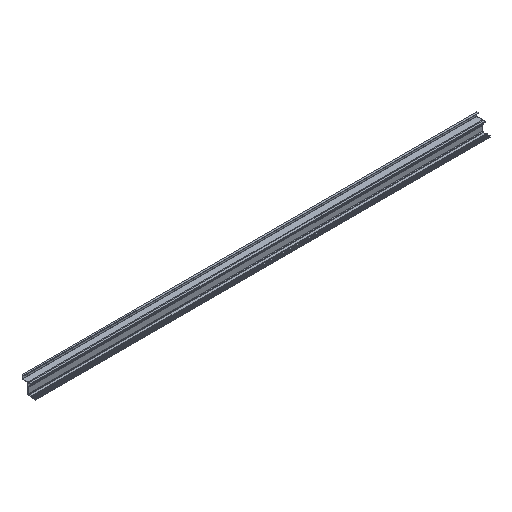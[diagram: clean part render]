
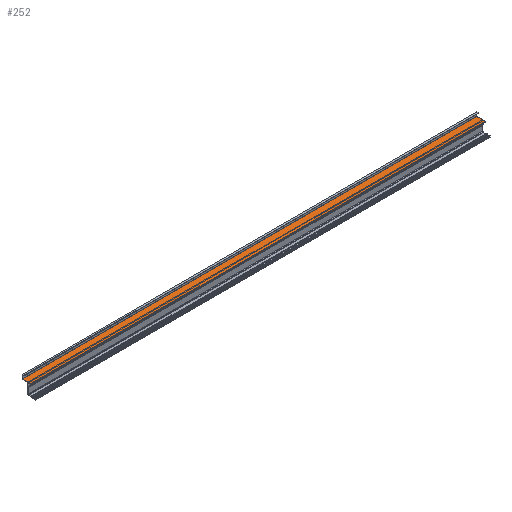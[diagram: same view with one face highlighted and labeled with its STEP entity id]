
A CAD part, isometric view. The second image highlights one B-rep face of the part: STEP entity #252.
In plain terms, the highlighted planar face has unit normal (0, 0, 1).
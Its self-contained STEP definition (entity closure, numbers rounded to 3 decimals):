
#252=ADVANCED_FACE('',(#540),#541,.T.);
#540=FACE_OUTER_BOUND('',#857,.T.);
#541=PLANE('',#858);
#857=EDGE_LOOP('',(#1531,#1532,#1533,#1534));
#858=AXIS2_PLACEMENT_3D('',#1535,#1536,#1537);
#1531=ORIENTED_EDGE('',*,*,#2194,.T.);
#1532=ORIENTED_EDGE('',*,*,#2006,.T.);
#1533=ORIENTED_EDGE('',*,*,#2195,.F.);
#1534=ORIENTED_EDGE('',*,*,#2196,.F.);
#1535=CARTESIAN_POINT('',(2420.0,25.0,65.0));
#1536=DIRECTION('',(0.,0.,1.0));
#1537=DIRECTION('',(0.,1.0,0.));
#2006=EDGE_CURVE('',#2421,#2419,#2422,.T.);
#2194=EDGE_CURVE('',#2700,#2421,#2701,.T.);
#2195=EDGE_CURVE('',#2702,#2419,#2703,.T.);
#2196=EDGE_CURVE('',#2700,#2702,#2704,.T.);
#2419=VERTEX_POINT('',#3025);
#2421=VERTEX_POINT('',#3028);
#2422=LINE('',#3029,#3030);
#2700=VERTEX_POINT('',#3414);
#2701=LINE('',#3415,#3416);
#2702=VERTEX_POINT('',#3417);
#2703=LINE('',#3418,#3419);
#2704=LINE('',#3420,#3421);
#3025=CARTESIAN_POINT('',(0.0,72.,65.0));
#3028=CARTESIAN_POINT('',(2500.0,72.0,65.0));
#3029=CARTESIAN_POINT('',(2420.0,72.0,65.0));
#3030=VECTOR('',#3800,1.0);
#3414=CARTESIAN_POINT('',(2500.0,25.0,65.0));
#3415=CARTESIAN_POINT('',(2500.0,25.0,65.0));
#3416=VECTOR('',#4000,1.0);
#3417=CARTESIAN_POINT('',(0.0,25.,65.0));
#3418=CARTESIAN_POINT('',(0.0,25.,65.0));
#3419=VECTOR('',#4001,1.0);
#3420=CARTESIAN_POINT('',(2420.0,25.0,65.0));
#3421=VECTOR('',#4002,1.0);
#3800=DIRECTION('',(-1.0,0.,0.));
#4000=DIRECTION('',(0.,1.0,0.));
#4001=DIRECTION('',(0.,1.0,0.));
#4002=DIRECTION('',(-1.0,0.,0.));
